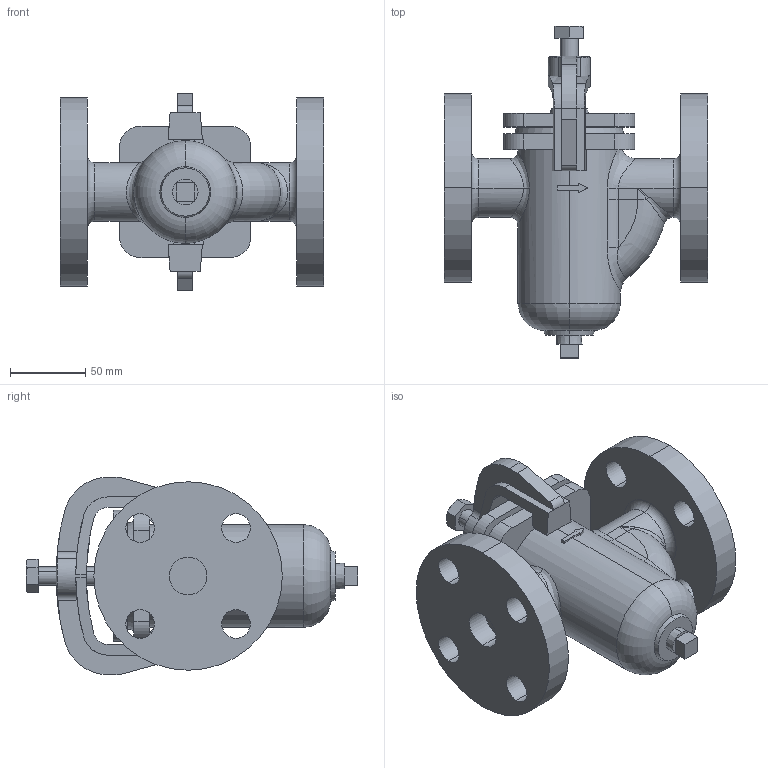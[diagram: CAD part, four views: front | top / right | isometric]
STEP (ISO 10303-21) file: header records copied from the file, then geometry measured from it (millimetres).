
FILE_DESCRIPTION (( 'STEP AP203' ), '1' );
FILE_NAME ('SU-20S 25A.STEP', '2025-12-15T02:23:40', ( '' ), ( '' ), 'SwSTEP 2.0', 'SolidWorks 2024', '' );
FILE_SCHEMA (( 'CONFIG_CONTROL_DESIGN' ));
Length unit declared in the file: millimetre
Products named in the file (4): SU-20S 25A; SU-20S Bolt 20-25A; SU-20S Arm 20-25A; SU-20S Body-P 25A
Assembly tree (3 placements, depth 2):
  SU-20S 25A
    SU-20S Body-P 25A
    SU-20S Arm 20-25A
    SU-20S Bolt 20-25A
Bounding box: 175 x 220.2 x 131 mm (x, y, z)
Volume: 1174792.4 mm3; surface area: 152212 mm2
Topology: 3 solids, 3 shells, 190 faces, 484 edges, 311 vertices
Faces by surface type: plane 79, cylinder 76, cone 15, bspline 7, torus 7, sphere 6
Entity records: 7974 total; most frequent: CARTESIAN_POINT 2982, ORIENTED_EDGE 964, DIRECTION 962, EDGE_CURVE 482, AXIS2_PLACEMENT_3D 364, VERTEX_POINT 311, VECTOR 234, LINE 234
